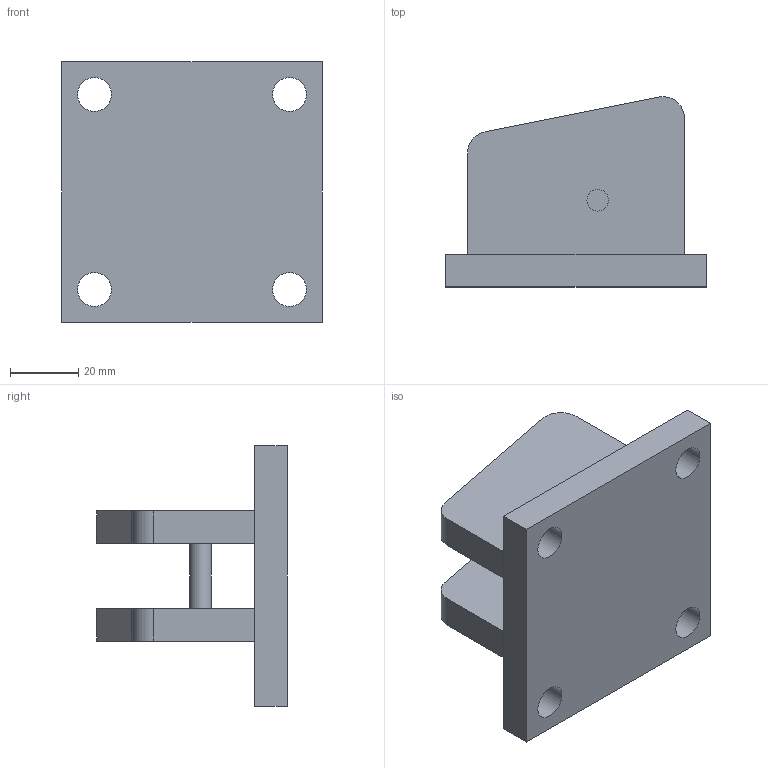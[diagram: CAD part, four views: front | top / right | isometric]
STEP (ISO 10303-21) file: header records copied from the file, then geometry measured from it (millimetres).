
FILE_DESCRIPTION((' '),'2;1');
FILE_NAME('C:\Users\Nick\Desktop\PCR-Series\LPCR-4000\3D\LPCR4000.stp','2015-07-24T10:55:58',(' '),(' '),' ','ACIS',' ');
FILE_SCHEMA(('CONFIG_CONTROL_DESIGN'));
Length unit declared in the file: inch
Products named in the file (3): C:\Users\Nick\Desktop\PCR-Series\LPCR-4000\3D\LPCR4000.stp; Body1; Body2
Assembly tree (2 placements, depth 2):
  C:\Users\Nick\Desktop\PCR-Series\LPCR-4000\3D\LPCR4000.stp
    Body1
    Body2
Bounding box: 76.2 x 55.75 x 76.2 mm (x, y, z)
Volume: 102542.5 mm3; surface area: 28053.3 mm2
Topology: 2 solids, 2 shells, 29 faces, 69 edges, 46 vertices
Faces by surface type: plane 18, cylinder 11
Full cylindrical faces by diameter (mm): 6.35 x3, 9.906 x4
Entity records: 1226 total; most frequent: DIRECTION 152, CARTESIAN_POINT 142, ORIENTED_EDGE 124, EDGE_CURVE 62, AXIS2_PLACEMENT_3D 56, EDGE_LOOP 50, VERTEX_POINT 46, VECTOR 40
